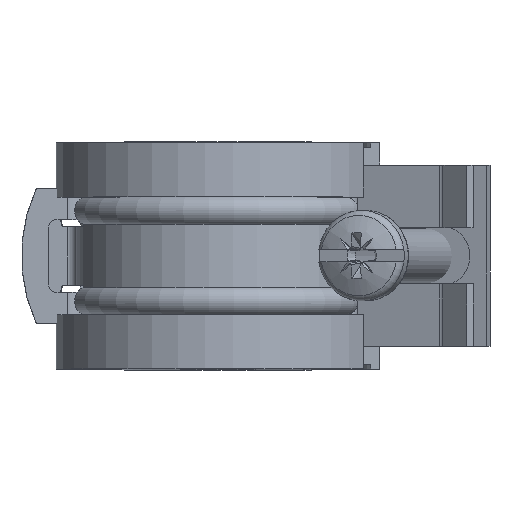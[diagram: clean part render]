
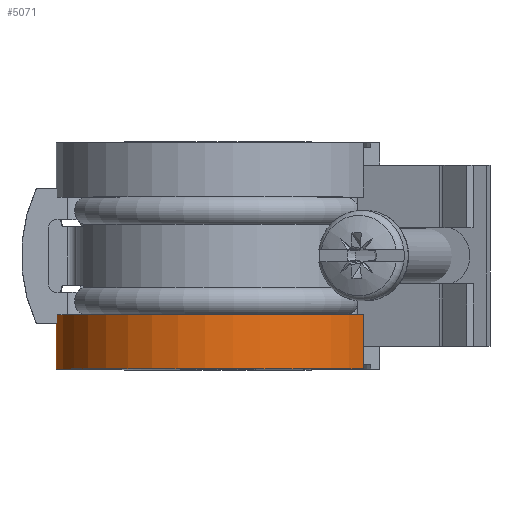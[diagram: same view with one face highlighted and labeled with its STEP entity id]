
A CAD part, top view. The second image highlights one B-rep face of the part: STEP entity #5071.
In plain terms, the highlighted cylindrical face has radius 17.9 mm (diameter 35.8 mm), a partial arc.
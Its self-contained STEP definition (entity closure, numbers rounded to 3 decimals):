
#519=FACE_OUTER_BOUND('',#805,.T.);
#805=EDGE_LOOP('',(#4273,#4274,#4275,#4276));
#1233=LINE('',#9231,#1637);
#1234=LINE('',#9234,#1638);
#1637=VECTOR('',#6772,1000.);
#1638=VECTOR('',#6775,1000.);
#1886=CIRCLE('',#5545,17.9);
#1887=CIRCLE('',#5547,17.9);
#2305=VERTEX_POINT('',#9221);
#2308=VERTEX_POINT('',#9226);
#2309=VERTEX_POINT('',#9230);
#2310=VERTEX_POINT('',#9232);
#2978=EDGE_CURVE('',#2308,#2305,#1886,.T.);
#2979=EDGE_CURVE('',#2309,#2308,#1233,.T.);
#2980=EDGE_CURVE('',#2309,#2310,#1887,.T.);
#2981=EDGE_CURVE('',#2310,#2305,#1234,.T.);
#4273=ORIENTED_EDGE('',*,*,#2978,.F.);
#4274=ORIENTED_EDGE('',*,*,#2979,.F.);
#4275=ORIENTED_EDGE('',*,*,#2980,.T.);
#4276=ORIENTED_EDGE('',*,*,#2981,.T.);
#4542=CYLINDRICAL_SURFACE('',#5546,17.9);
#5071=ADVANCED_FACE('',(#519),#4542,.T.);
#5545=AXIS2_PLACEMENT_3D('',#9228,#6768,#6769);
#5546=AXIS2_PLACEMENT_3D('',#9229,#6770,#6771);
#5547=AXIS2_PLACEMENT_3D('',#9233,#6773,#6774);
#6768=DIRECTION('center_axis',(0.,1.,0.));
#6769=DIRECTION('ref_axis',(0.999,0.,-0.042));
#6770=DIRECTION('center_axis',(0.,1.,0.));
#6771=DIRECTION('ref_axis',(-0.978,0.,-0.207));
#6772=DIRECTION('',(0.,1.,0.));
#6773=DIRECTION('center_axis',(0.,1.,0.));
#6774=DIRECTION('ref_axis',(0.999,0.,-0.042));
#6775=DIRECTION('',(0.,1.,0.));
#9221=CARTESIAN_POINT('',(16.048,-6.5,7.93));
#9226=CARTESIAN_POINT('',(17.884,-6.5,-0.75));
#9228=CARTESIAN_POINT('Origin',(0.,-6.5,0.));
#9229=CARTESIAN_POINT('Origin',(0.,0.,
0.));
#9230=CARTESIAN_POINT('',(17.884,-12.5,-0.75));
#9231=CARTESIAN_POINT('',(17.884,-6.5,-0.75));
#9232=CARTESIAN_POINT('',(16.048,-12.5,7.93));
#9233=CARTESIAN_POINT('Origin',(0.,-12.5,0.));
#9234=CARTESIAN_POINT('',(16.048,-6.5,7.93));
